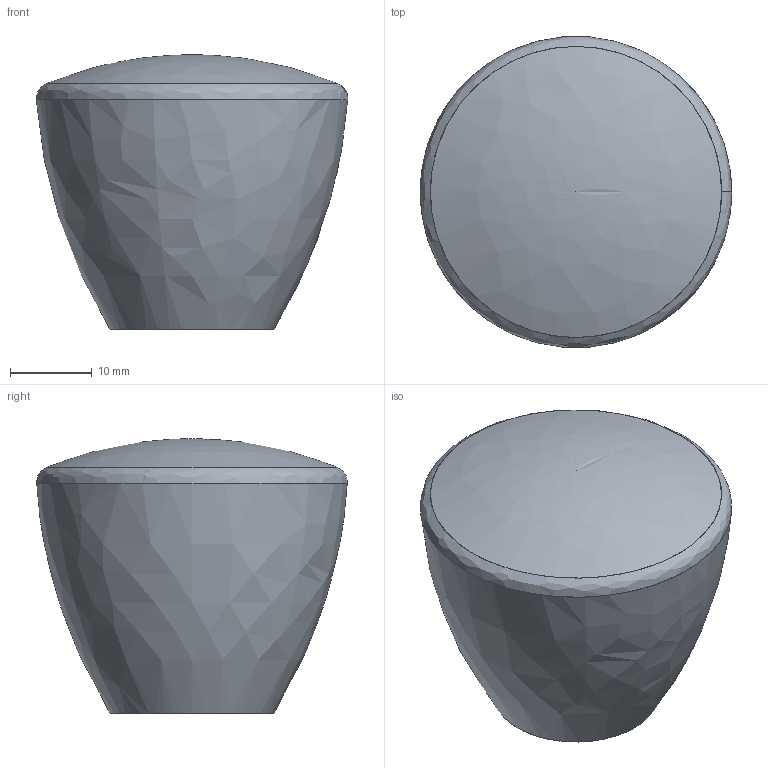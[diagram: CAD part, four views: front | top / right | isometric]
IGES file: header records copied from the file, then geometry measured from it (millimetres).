
Start section: C
Global section: file name: 8062-32.igs; native system: By Siemens PLM Incorporated; preprocessor: XPlus GENERIC/IGES 16.0.42; author: Author; organization: Title; date: 20210331.081832; units: millimetre
Bounding box: 38 x 37.88 x 33.47 mm (x, y, z)
Surface area: 7852 mm2 (no closed solid volume)
Topology: 0 solids, 0 shells, 35 faces, 173 edges, 172 vertices
Faces by surface type: bspline 35
